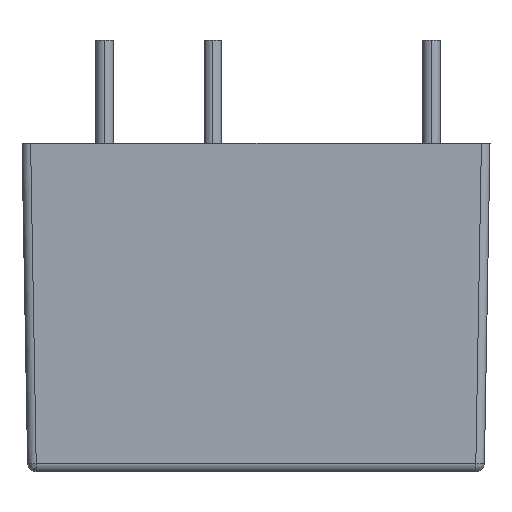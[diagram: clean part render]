
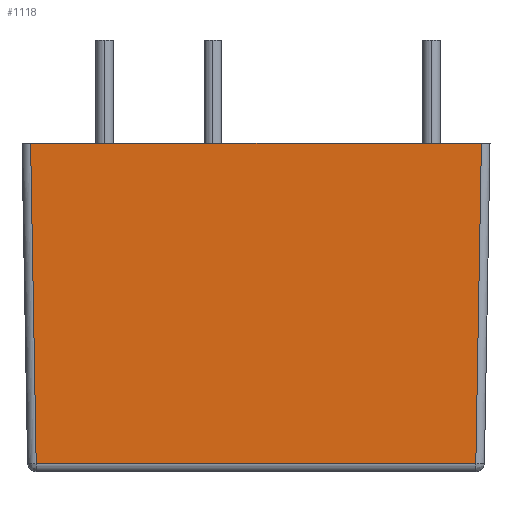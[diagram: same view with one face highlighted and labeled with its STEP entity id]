
A CAD part, left-side view. The second image highlights one B-rep face of the part: STEP entity #1118.
In plain terms, the highlighted planar face has unit normal (1, 0, 0.018).
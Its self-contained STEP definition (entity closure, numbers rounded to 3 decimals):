
#90 = CARTESIAN_POINT ( 'NONE',  ( -1.475, 5.267, -2.309 ) ) ;
#105 = EDGE_CURVE ( 'NONE', #587, #2534, #2296, .T. ) ;
#208 = DIRECTION ( 'NONE',  ( -1., 0., -0.017 ) ) ;
#276 = EDGE_CURVE ( 'NONE', #1984, #587, #1972, .T. ) ;
#385 = FACE_OUTER_BOUND ( 'NONE', #612, .T. ) ;
#451 = LINE ( 'NONE', #849, #2559 ) ;
#483 = DIRECTION ( 'NONE',  ( 0.017, -0.017, -1. ) ) ;
#587 = VERTEX_POINT ( 'NONE', #1467 ) ;
#612 = EDGE_LOOP ( 'NONE', ( #1056, #745, #800, #2158 ) ) ;
#745 = ORIENTED_EDGE ( 'NONE', *, *, #2145, .F. ) ;
#764 = VECTOR ( 'NONE', #483, 1000. ) ;
#800 = ORIENTED_EDGE ( 'NONE', *, *, #1306, .T. ) ;
#849 = CARTESIAN_POINT ( 'NONE',  ( -1.475, -0.875, -2.309 ) ) ;
#923 = LINE ( 'NONE', #90, #1858 ) ;
#996 = CARTESIAN_POINT ( 'NONE',  ( -1.467, -1.367, -2.8 ) ) ;
#997 = CARTESIAN_POINT ( 'NONE',  ( -1.8, -1.2, 16.3 ) ) ;
#1056 = ORIENTED_EDGE ( 'NONE', *, *, #276, .F. ) ;
#1118 = ADVANCED_FACE ( 'NONE', ( #385 ), #1402, .F. ) ;
#1306 = EDGE_CURVE ( 'NONE', #2024, #2534, #923, .T. ) ;
#1402 = PLANE ( 'NONE',  #1674 ) ;
#1425 = CARTESIAN_POINT ( 'NONE',  ( -1.8, -1.367, 16.3 ) ) ;
#1448 = VECTOR ( 'NONE', #2022, 1000. ) ;
#1467 = CARTESIAN_POINT ( 'NONE',  ( -1.8, 25., 16.3 ) ) ;
#1590 = DIRECTION ( 'NONE',  ( -0.017, 0., 1. ) ) ;
#1598 = CARTESIAN_POINT ( 'NONE',  ( -1.475, -0.875, -2.309 ) ) ;
#1673 = CARTESIAN_POINT ( 'NONE',  ( -1.8, 25., 16.3 ) ) ;
#1674 = AXIS2_PLACEMENT_3D ( 'NONE', #996, #208, #1590 ) ;
#1700 = CARTESIAN_POINT ( 'NONE',  ( -1.475, 24.675, -2.309 ) ) ;
#1858 = VECTOR ( 'NONE', #2080, 1000. ) ;
#1972 = LINE ( 'NONE', #1425, #1448 ) ;
#1984 = VERTEX_POINT ( 'NONE', #997 ) ;
#2022 = DIRECTION ( 'NONE',  ( 0., 1., 0. ) ) ;
#2024 = VERTEX_POINT ( 'NONE', #1598 ) ;
#2044 = DIRECTION ( 'NONE',  ( -0.017, -0.017, 1. ) ) ;
#2080 = DIRECTION ( 'NONE',  ( 0., 1., 0. ) ) ;
#2145 = EDGE_CURVE ( 'NONE', #2024, #1984, #451, .T. ) ;
#2158 = ORIENTED_EDGE ( 'NONE', *, *, #105, .F. ) ;
#2296 = LINE ( 'NONE', #1673, #764 ) ;
#2534 = VERTEX_POINT ( 'NONE', #1700 ) ;
#2559 = VECTOR ( 'NONE', #2044, 1000. ) ;
